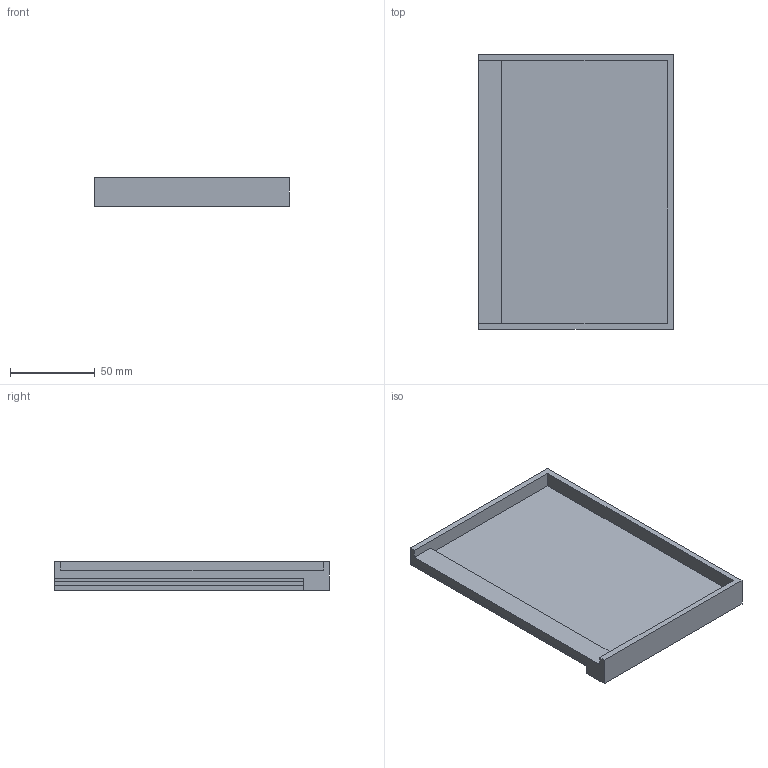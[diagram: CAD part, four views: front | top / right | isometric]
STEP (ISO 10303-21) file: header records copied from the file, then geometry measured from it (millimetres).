
FILE_DESCRIPTION(('Open CASCADE Model'),'2;1');
FILE_NAME('Open CASCADE Shape Model','2026-10-18T14:32:08',('Author'),( 'Open CASCADE'),'Open CASCADE STEP processor 7.9','Open CASCADE 7.9' ,'Unknown');
FILE_SCHEMA(('AUTOMOTIVE_DESIGN { 1 0 10303 214 1 1 1 1 }'));
Length unit declared in the file: millimetre
Products named in the file (1): Open CASCADE STEP translator 7.9 3
Bounding box: 115 x 162 x 17 mm (x, y, z)
Volume: 161581.8 mm3; surface area: 51621.7 mm2
Topology: 1 solids, 1 shells, 19 faces, 51 edges, 34 vertices
Faces by surface type: plane 19
Entity records: 1258 total; most frequent: CARTESIAN_POINT 207, DIRECTION 193, LINE 153, VECTOR 153, ORIENTED_EDGE 102, PCURVE 102, DEFINITIONAL_REPRESENTATION 102, EDGE_CURVE 51
